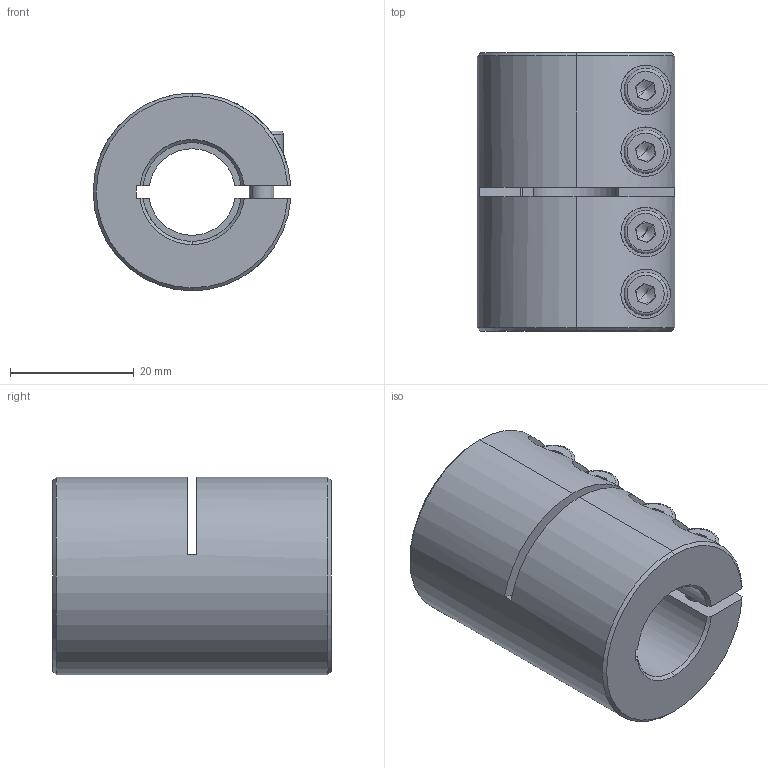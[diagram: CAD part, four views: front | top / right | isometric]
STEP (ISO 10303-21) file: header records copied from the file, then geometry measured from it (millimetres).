
FILE_DESCRIPTION (( 'STEP AP214' ), '1' );
FILE_NAME ('LL-B-D32L45-14-16½¨Ä£.STEP', '2022-07-21T07:13:00', ( '' ), ( '' ), 'SwSTEP 2.0', 'SolidWorks 2022', '' );
FILE_SCHEMA (( 'AUTOMOTIVE_DESIGN' ));
Length unit declared in the file: millimetre
Products named in the file (1): LL-B-D32L45-14-16膘耀
Bounding box: 31.97 x 45 x 32 mm (x, y, z)
Volume: 26220.5 mm3; surface area: 10779.8 mm2
Topology: 1 solids, 1 shells, 193 faces, 492 edges, 309 vertices
Faces by surface type: plane 88, cylinder 77, cone 20, torus 8
Entity records: 6357 total; most frequent: CARTESIAN_POINT 1583, DIRECTION 1037, ORIENTED_EDGE 968, EDGE_CURVE 484, AXIS2_PLACEMENT_3D 403, VERTEX_POINT 309, LINE 231, VECTOR 231
